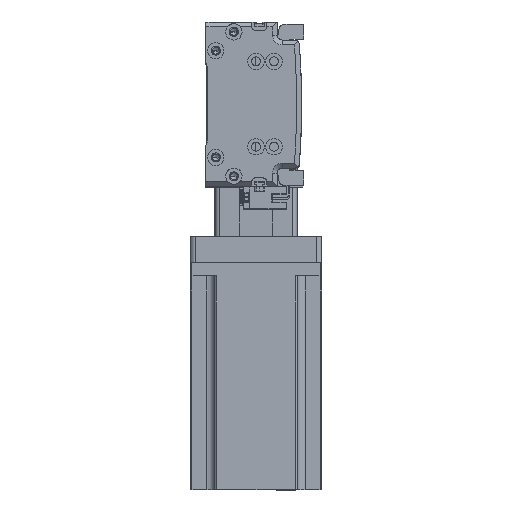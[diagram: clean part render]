
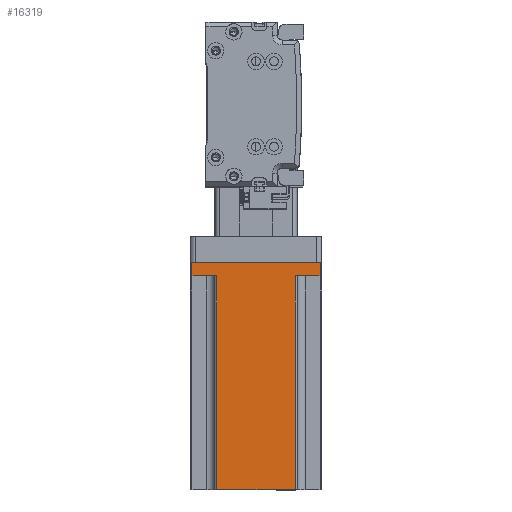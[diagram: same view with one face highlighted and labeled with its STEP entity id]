
A CAD part, top view. The second image highlights one B-rep face of the part: STEP entity #16319.
In plain terms, the highlighted planar face has unit normal (0, 0, 1) as drawn and (0, -1, 0) by its records, which use the part's own axes.
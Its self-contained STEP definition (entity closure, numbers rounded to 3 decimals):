
#191 = DIRECTION ( 'NONE',  ( 1., 0., 0. ) ) ;
#602 = CARTESIAN_POINT ( 'NONE',  ( 25., -40., 8. ) ) ;
#1144 = VECTOR ( 'NONE', #191, 1000. ) ;
#2462 = LINE ( 'NONE', #9203, #19271 ) ;
#5515 = LINE ( 'NONE', #602, #13372 ) ;
#5541 = VERTEX_POINT ( 'NONE', #42800 ) ;
#5870 = ORIENTED_EDGE ( 'NONE', *, *, #42747, .F. ) ;
#6124 = CARTESIAN_POINT ( 'NONE',  ( 24., -40., 138.3 ) ) ;
#6176 = DIRECTION ( 'NONE',  ( 0., 1., 0. ) ) ;
#6226 = DIRECTION ( 'NONE',  ( 0., 0., -1. ) ) ;
#6439 = VERTEX_POINT ( 'NONE', #24799 ) ;
#7823 = ORIENTED_EDGE ( 'NONE', *, *, #28424, .F. ) ;
#8500 = ORIENTED_EDGE ( 'NONE', *, *, #30942, .T. ) ;
#9203 = CARTESIAN_POINT ( 'NONE',  ( 40., -40., 0. ) ) ;
#9538 = VECTOR ( 'NONE', #26326, 1000. ) ;
#9661 = ORIENTED_EDGE ( 'NONE', *, *, #23026, .T. ) ;
#10112 = CARTESIAN_POINT ( 'NONE',  ( 39., -40., 0. ) ) ;
#10214 = VERTEX_POINT ( 'NONE', #10112 ) ;
#11222 = CARTESIAN_POINT ( 'NONE',  ( 24., -40., 138.3 ) ) ;
#12763 = PLANE ( 'NONE',  #28479 ) ;
#13033 = EDGE_CURVE ( 'NONE', #10214, #13555, #34906, .T. ) ;
#13372 = VECTOR ( 'NONE', #30760, 1000. ) ;
#13471 = ORIENTED_EDGE ( 'NONE', *, *, #13033, .T. ) ;
#13555 = VERTEX_POINT ( 'NONE', #13806 ) ;
#13806 = CARTESIAN_POINT ( 'NONE',  ( 39., -40., 8. ) ) ;
#14148 = DIRECTION ( 'NONE',  ( 0., 0., 1. ) ) ;
#16319 = ADVANCED_FACE ( 'NONE', ( #20549 ), #12763, .F. ) ;
#18049 = DIRECTION ( 'NONE',  ( 0., 0., 1. ) ) ;
#18466 = DIRECTION ( 'NONE',  ( 0., 0., -1. ) ) ;
#18515 = LINE ( 'NONE', #26471, #9538 ) ;
#19271 = VECTOR ( 'NONE', #39558, 1000. ) ;
#20488 = LINE ( 'NONE', #28658, #21548 ) ;
#20549 = FACE_OUTER_BOUND ( 'NONE', #36692, .T. ) ;
#21001 = ORIENTED_EDGE ( 'NONE', *, *, #40154, .T. ) ;
#21548 = VECTOR ( 'NONE', #18466, 1000. ) ;
#21594 = VECTOR ( 'NONE', #18049, 1000. ) ;
#21622 = EDGE_CURVE ( 'NONE', #5541, #27950, #20488, .T. ) ;
#23026 = EDGE_CURVE ( 'NONE', #6439, #38572, #40456, .T. ) ;
#24389 = CARTESIAN_POINT ( 'NONE',  ( -39., -40., 0. ) ) ;
#24744 = LINE ( 'NONE', #26321, #42596 ) ;
#24799 = CARTESIAN_POINT ( 'NONE',  ( 24., -40., 8. ) ) ;
#26027 = VECTOR ( 'NONE', #14148, 1000. ) ;
#26265 = CARTESIAN_POINT ( 'NONE',  ( 40., -40., 138.3 ) ) ;
#26321 = CARTESIAN_POINT ( 'NONE',  ( -39., -40., 138.3 ) ) ;
#26326 = DIRECTION ( 'NONE',  ( 1., 0., 0. ) ) ;
#26471 = CARTESIAN_POINT ( 'NONE',  ( 40., -40., 138.3 ) ) ;
#26691 = CARTESIAN_POINT ( 'NONE',  ( -25., -40., 8. ) ) ;
#27470 = CARTESIAN_POINT ( 'NONE',  ( 39., -40., 138.3 ) ) ;
#27950 = VERTEX_POINT ( 'NONE', #30143 ) ;
#28424 = EDGE_CURVE ( 'NONE', #5541, #38572, #18515, .T. ) ;
#28479 = AXIS2_PLACEMENT_3D ( 'NONE', #26265, #6176, #29601 ) ;
#28658 = CARTESIAN_POINT ( 'NONE',  ( -24., -40., 138.3 ) ) ;
#29418 = CARTESIAN_POINT ( 'NONE',  ( -39., -40., 8. ) ) ;
#29601 = DIRECTION ( 'NONE',  ( -1., 0., 0. ) ) ;
#30143 = CARTESIAN_POINT ( 'NONE',  ( -24., -40., 8. ) ) ;
#30760 = DIRECTION ( 'NONE',  ( -1., 0., 0. ) ) ;
#30942 = EDGE_CURVE ( 'NONE', #31963, #40680, #24744, .T. ) ;
#31963 = VERTEX_POINT ( 'NONE', #29418 ) ;
#34906 = LINE ( 'NONE', #27470, #26027 ) ;
#36363 = EDGE_CURVE ( 'NONE', #13555, #6439, #5515, .T. ) ;
#36692 = EDGE_LOOP ( 'NONE', ( #7823, #37493, #5870, #8500, #21001, #13471, #37722, #9661 ) ) ;
#37493 = ORIENTED_EDGE ( 'NONE', *, *, #21622, .T. ) ;
#37722 = ORIENTED_EDGE ( 'NONE', *, *, #36363, .T. ) ;
#38572 = VERTEX_POINT ( 'NONE', #6124 ) ;
#39558 = DIRECTION ( 'NONE',  ( 1., 0., 0. ) ) ;
#40154 = EDGE_CURVE ( 'NONE', #40680, #10214, #2462, .T. ) ;
#40456 = LINE ( 'NONE', #11222, #21594 ) ;
#40471 = LINE ( 'NONE', #26691, #1144 ) ;
#40680 = VERTEX_POINT ( 'NONE', #24389 ) ;
#42596 = VECTOR ( 'NONE', #6226, 1000. ) ;
#42747 = EDGE_CURVE ( 'NONE', #31963, #27950, #40471, .T. ) ;
#42800 = CARTESIAN_POINT ( 'NONE',  ( -24., -40., 138.3 ) ) ;
